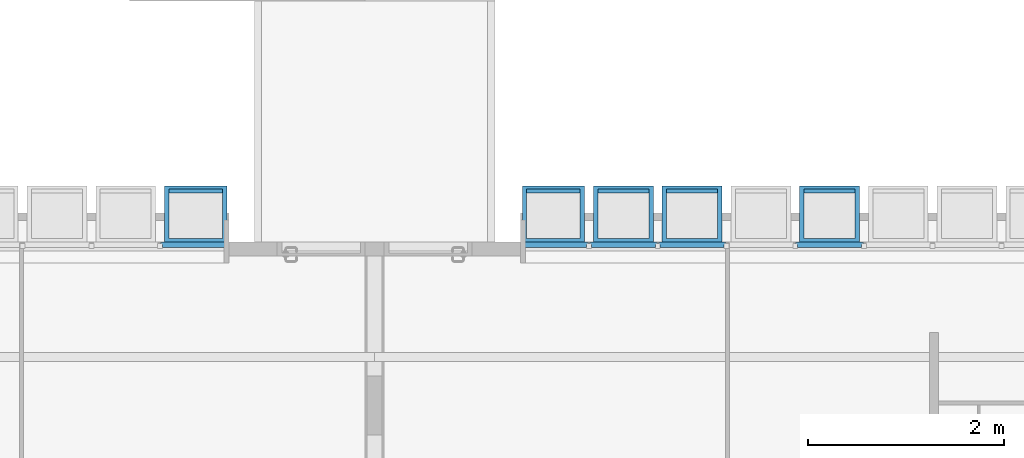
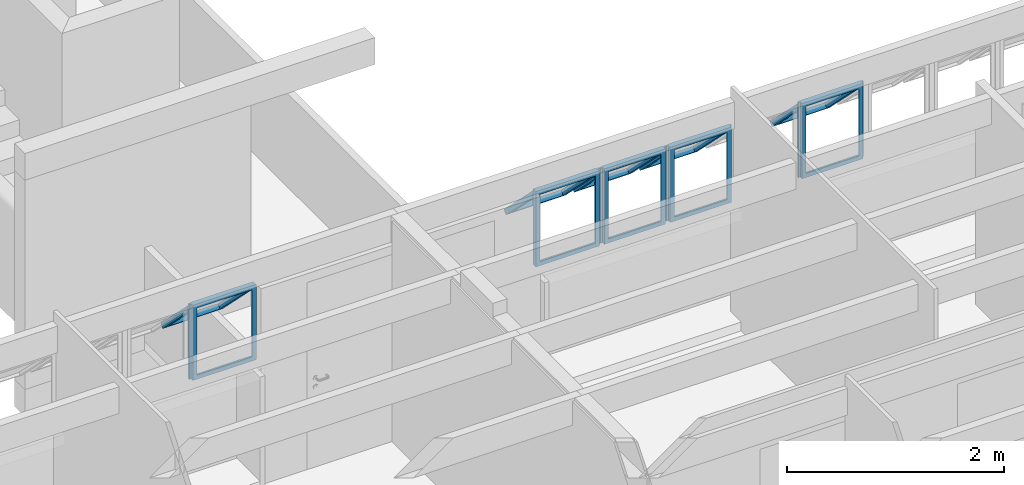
# One storey, part 29 of 37: 5 building element parts, 7 elements without a shape of their own.
"""IFC2X3 building model written with IfcOpenShell, lengths in millimetres."""

from ifc_helpers import new_model, entity, si_unit, converted_unit, derived_unit, money_unit, direction, frame, origin_with_axes, place, context, subcontext, project, spatial, faceted_brep, source, transform, mapped, material, type_object, element, aggregate, save


model = new_model("IFC2X3")

# Units and contexts
model_context = context("Model", 3, precision=0.01, world=origin_with_axes(), true_north=direction((0.0, 1.0)))
body_context = subcontext(model_context, "Body", "Model", "MODEL_VIEW")
ifc_project = project(units=[si_unit("LENGTHUNIT", "METRE", prefix="MILLI"), si_unit("AREAUNIT", "SQUARE_METRE"), si_unit("VOLUMEUNIT", "CUBIC_METRE"), converted_unit("PLANEANGLEUNIT", "DEGREE", entity("IfcPlaneAngleMeasure", 0.0174532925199), si_unit("PLANEANGLEUNIT", "RADIAN"), dimensions=[0, 0, 0, 0, 0, 0, 0]), money_unit("USD"), converted_unit("TIMEUNIT", "Year", entity("IfcTimeMeasure", 31556926.0), si_unit("TIMEUNIT", "SECOND"), dimensions=[0, 0, 1, 0, 0, 0, 0]), si_unit("MASSUNIT", "GRAM", prefix="KILO"), si_unit("THERMODYNAMICTEMPERATUREUNIT", "DEGREE_CELSIUS"), si_unit("LUMINOUSINTENSITYUNIT", "LUMEN"), si_unit("ENERGYUNIT", "JOULE", prefix="MEGA"), derived_unit("THERMALCONDUCTANCEUNIT", [(si_unit("POWERUNIT", "WATT"), 1), (si_unit("LENGTHUNIT", "METRE"), -1), (si_unit("THERMODYNAMICTEMPERATUREUNIT", "KELVIN"), -1)]), derived_unit("SPECIFICHEATCAPACITYUNIT", [(si_unit("ENERGYUNIT", "JOULE"), 1), (si_unit("MASSUNIT", "GRAM", prefix="KILO"), -1), (si_unit("THERMODYNAMICTEMPERATUREUNIT", "KELVIN"), -1)]), derived_unit("MASSDENSITYUNIT", [(si_unit("MASSUNIT", "GRAM", prefix="KILO"), 1), (si_unit("VOLUMEUNIT", "CUBIC_METRE"), -1)])], contexts=[model_context])

# Site, building, storey
site_placement = place(None, origin_with_axes())
site = spatial("IfcSite", under=ifc_project, at=site_placement, Name="Local", CompositionType="ELEMENT")
building_placement = place(site_placement, origin_with_axes())
building = spatial("IfcBuilding", under=site, at=building_placement, Name="Construção", CompositionType="ELEMENT")
storey_placement = place(building_placement, origin_with_axes())
storey = spatial("IfcBuildingStorey", under=building, at=storey_placement, Name="Primeiro Pavimento", CompositionType="ELEMENT", Elevation=0.0)

# Window, plates, building element parts
window_style = type_object("IfcWindowStyle", Name="Tipo de Parede Cortina", ConstructionType="NOTDEFINED", OperationType="NOTDEFINED", ParameterTakesPrecedence=False, Sizeable=False)
window_1_placement = place(storey_placement, frame((12020.0, 8250.0, 1355.00007107), z_axis=(0.0, 0.0, 1.0), x_axis=(1.0, 0.0, 0.0)))
window_1 = element("IfcWindow", 1, at=window_1_placement, inside=storey, type_object=window_style, Name="APTO2-JANELA-000")
plate_type_1 = type_object("IfcPlateType", Name="Painel Principal 690 x 845 x 20", PredefinedType="CURTAIN_PANEL")
plate_1_placement = place(window_1_placement, frame((0.0, 0.0, 422.499964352), z_axis=(0.0, 0.0, 1.0), x_axis=(1.0, 0.0, 0.0)))
plate_1 = element("IfcPlate", 2, at=plate_1_placement, type_object=plate_type_1, Name="APTO2-Painel-Prin-013")
ifc_material = material(Name="Alumínio")
shared_shape_1 = source(origin_with_axes(), body_context, "Body", "Brep", [
    faceted_brep([(25.0000036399, 0.0, -40.0), (674.999997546, 0.0, -40.0), (674.999997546, 0.0, -35.0), (25.0000036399, 0.0, -35.0), (70.0000036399, 45.0, -40.0), (629.999997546, 45.0, -40.0), (629.999997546, 45.0, -35.0), (70.0000036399, 45.0, -35.0)], [[[0, 1, 2, 3]], [[0, 4, 5, 1]], [[1, 5, 6, 2]], [[3, 2, 6, 7]], [[4, 0, 3, 7]], [[5, 4, 7, 6]]]),
    faceted_brep([(674.999997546, 0.0, -40.0), (674.999997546, 844.999891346, -40.0), (674.999997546, 844.999891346, -35.0), (674.999997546, 0.0, -35.0), (629.999997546, 45.0, -40.0), (629.999997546, 799.999891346, -40.0), (629.999997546, 799.999891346, -35.0), (629.999997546, 45.0, -35.0)], [[[0, 1, 2, 3]], [[0, 4, 5, 1]], [[1, 5, 6, 2]], [[3, 2, 6, 7]], [[4, 0, 3, 7]], [[5, 4, 7, 6]]]),
    faceted_brep([(25.0000036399, 844.999891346, -40.0), (70.0000036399, 799.999891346, -40.0), (70.0000036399, 799.999891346, -35.0), (25.0000036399, 844.999891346, -35.0), (674.999997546, 844.999891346, -40.0), (629.999997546, 799.999891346, -40.0), (629.999997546, 799.999891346, -35.0), (674.999997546, 844.999891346, -35.0)], [[[0, 1, 2, 3]], [[0, 4, 5, 1]], [[1, 5, 6, 2]], [[3, 2, 6, 7]], [[4, 0, 3, 7]], [[5, 4, 7, 6]]]),
    faceted_brep([(25.0000036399, 0.0, -40.0), (70.0000036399, 45.0, -40.0), (70.0000036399, 45.0, -35.0), (25.0000036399, 0.0, -35.0), (25.0000036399, 844.999891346, -40.0), (70.0000036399, 799.999891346, -40.0), (70.0000036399, 799.999891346, -35.0), (25.0000036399, 844.999891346, -35.0)], [[[0, 1, 2, 3]], [[0, 4, 5, 1]], [[1, 5, 6, 2]], [[3, 2, 6, 7]], [[4, 0, 3, 7]], [[5, 4, 7, 6]]]),
    faceted_brep([(25.0000036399, 0.0, -35.0), (674.999997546, 0.0, -35.0), (674.999997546, 0.0, 15.0), (25.0000036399, 0.0, 15.0), (45.0000036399, 20.0, -35.0), (654.999997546, 20.0, -35.0), (654.999997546, 20.0, 15.0), (45.0000036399, 20.0, 15.0)], [[[0, 1, 2, 3]], [[0, 4, 5, 1]], [[1, 5, 6, 2]], [[3, 2, 6, 7]], [[4, 0, 3, 7]], [[5, 4, 7, 6]]]),
    faceted_brep([(674.999997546, 0.0, -35.0), (674.999997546, 844.999891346, -35.0), (674.999997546, 844.999891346, 15.0), (674.999997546, 0.0, 15.0), (654.999997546, 20.0, -35.0), (654.999997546, 824.999891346, -35.0), (654.999997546, 824.999891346, 15.0), (654.999997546, 20.0, 15.0)], [[[0, 1, 2, 3]], [[0, 4, 5, 1]], [[1, 5, 6, 2]], [[3, 2, 6, 7]], [[4, 0, 3, 7]], [[5, 4, 7, 6]]]),
    faceted_brep([(25.0000036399, 844.999891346, -35.0), (45.0000036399, 824.999891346, -35.0), (45.0000036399, 824.999891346, 15.0), (25.0000036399, 844.999891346, 15.0), (674.999997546, 844.999891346, -35.0), (654.999997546, 824.999891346, -35.0), (654.999997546, 824.999891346, 15.0), (674.999997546, 844.999891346, 15.0)], [[[0, 1, 2, 3]], [[0, 4, 5, 1]], [[1, 5, 6, 2]], [[3, 2, 6, 7]], [[4, 0, 3, 7]], [[5, 4, 7, 6]]]),
    faceted_brep([(25.0000036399, 0.0, -35.0), (45.0000036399, 20.0, -35.0), (45.0000036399, 20.0, 15.0), (25.0000036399, 0.0, 15.0), (25.0000036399, 844.999891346, -35.0), (45.0000036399, 824.999891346, -35.0), (45.0000036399, 824.999891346, 15.0), (25.0000036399, 844.999891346, 15.0)], [[[0, 1, 2, 3]], [[0, 4, 5, 1]], [[1, 5, 6, 2]], [[3, 2, 6, 7]], [[4, 0, 3, 7]], [[5, 4, 7, 6]]]),
    faceted_brep([(694.999995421, 0.0, -10.0), (694.999995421, 844.999891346, -10.0), (694.999995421, 844.999891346, 10.0), (694.999995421, 0.0, 10.0), (674.999997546, 0.0, -10.0), (674.999997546, 844.999891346, -10.0), (674.999997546, 844.999891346, 10.0), (674.999997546, 0.0, 10.0)], [[[0, 1, 2, 3]], [[0, 4, 5, 1]], [[1, 5, 6, 2]], [[3, 2, 6, 7]], [[4, 0, 3, 7]], [[5, 4, 7, 6]]]),
    faceted_brep([(5.00000576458, 844.999891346, -10.0), (5.00000576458, 0.0, -10.0), (5.00000576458, 0.0, 10.0), (5.00000576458, 844.999891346, 10.0), (25.0000036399, 844.999891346, -10.0), (25.0000036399, 0.0, -10.0), (25.0000036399, 0.0, 10.0), (25.0000036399, 844.999891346, 10.0)], [[[0, 1, 2, 3]], [[0, 4, 5, 1]], [[1, 5, 6, 2]], [[3, 2, 6, 7]], [[4, 0, 3, 7]], [[5, 4, 7, 6]]]),
    faceted_brep([(90.0000036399, 252.243475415, 517.045737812), (90.0000036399, 757.824747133, 11.4644660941), (90.0000036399, 796.715620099, 50.3553390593), (90.0000036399, 291.13434838, 555.936610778), (45.0000036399, 220.423670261, 548.865542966), (45.0000036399, 789.644552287, -20.3553390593), (45.0000036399, 828.535425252, 18.5355339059), (45.0000036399, 259.314543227, 587.756415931)], [[[0, 1, 2, 3]], [[0, 4, 5, 1]], [[1, 5, 6, 2]], [[3, 2, 6, 7]], [[4, 0, 3, 7]], [[5, 4, 7, 6]]]),
    faceted_brep([(654.999997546, 220.423670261, 548.865542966), (654.999997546, 789.644552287, -20.3553390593), (654.999997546, 828.535425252, 18.5355339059), (654.999997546, 259.314543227, 587.756415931), (609.999997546, 252.243475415, 517.045737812), (609.999997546, 757.824747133, 11.4644660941), (609.999997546, 796.715620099, 50.3553390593), (609.999997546, 291.13434838, 555.936610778)], [[[0, 1, 2, 3]], [[0, 4, 5, 1]], [[1, 5, 6, 2]], [[3, 2, 6, 7]], [[4, 0, 3, 7]], [[5, 4, 7, 6]]]),
    faceted_brep([(654.999997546, 220.423670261, 548.865542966), (609.999997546, 252.243475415, 517.045737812), (609.999997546, 291.13434838, 555.936610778), (654.999997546, 259.314543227, 587.756415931), (45.0000036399, 220.423670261, 548.865542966), (90.0000036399, 252.243475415, 517.045737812), (90.0000036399, 291.13434838, 555.936610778), (45.0000036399, 259.314543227, 587.756415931)], [[[0, 1, 2, 3]], [[0, 4, 5, 1]], [[1, 5, 6, 2]], [[3, 2, 6, 7]], [[4, 0, 3, 7]], [[5, 4, 7, 6]]]),
    faceted_brep([(45.0000036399, 789.644552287, -20.3553390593), (90.0000036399, 757.824747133, 11.4644660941), (90.0000036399, 796.715620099, 50.3553390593), (45.0000036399, 828.535425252, 18.5355339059), (654.999997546, 789.644552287, -20.3553390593), (609.999997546, 757.824747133, 11.4644660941), (609.999997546, 796.715620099, 50.3553390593), (654.999997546, 828.535425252, 18.5355339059)], [[[0, 1, 2, 3]], [[0, 4, 5, 1]], [[1, 5, 6, 2]], [[3, 2, 6, 7]], [[4, 0, 3, 7]], [[5, 4, 7, 6]]]),
])
building_element_part_1_placement = place(plate_1_placement, origin_with_axes())
building_element_part_1 = element("IfcBuildingElementPart", 3, at=building_element_part_1_placement, material=ifc_material, Name="Alumínio", context=body_context, shape_type="MappedRepresentation", body=[
    mapped(shared_shape_1, transform((350.0, 0.0, -422.499964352), x_axis=(-1.0, 0.0, 0.0), y_axis=(0.0, 0.0, 1.0), z_axis=(0.0, 1.0, 0.0))),
])
aggregate(plate_1, [building_element_part_1])
plate_2_placement = place(window_1_placement, frame((-2100.0, 0.0, 422.499964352), z_axis=(0.0, 0.0, 1.0), x_axis=(1.0, 0.0, 0.0)))
plate_2 = element("IfcPlate", 4, at=plate_2_placement, type_object=plate_type_1, Name="APTO2-Painel-Prin-029")
building_element_part_2_placement = place(plate_2_placement, origin_with_axes())
building_element_part_2 = element("IfcBuildingElementPart", 5, at=building_element_part_2_placement, material=ifc_material, Name="Alumínio", context=body_context, shape_type="MappedRepresentation", body=[
    mapped(shared_shape_1, transform((350.0, 0.0, -422.499964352), x_axis=(-1.0, 0.0, 0.0), y_axis=(0.0, 0.0, 1.0), z_axis=(0.0, 1.0, 0.0))),
])
aggregate(plate_2, [building_element_part_2])
plate_3_placement = place(window_1_placement, frame((-1400.0, 0.0, 422.499964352), z_axis=(0.0, 0.0, 1.0), x_axis=(1.0, 0.0, 0.0)))
plate_3 = element("IfcPlate", 6, at=plate_3_placement, type_object=plate_type_1, Name="APTO2-Painel-Prin-025")
shared_shape_2 = source(origin_with_axes(), body_context, "Body", "Brep", [
    faceted_brep([(25.0000036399, 0.0, -40.0), (674.999997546, 0.0, -40.0), (674.999997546, 0.0, -35.0), (25.0000036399, 0.0, -35.0), (70.0000036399, 45.0, -40.0), (629.999997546, 45.0, -40.0), (629.999997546, 45.0, -35.0), (70.0000036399, 45.0, -35.0)], [[[0, 1, 2, 3]], [[0, 4, 5, 1]], [[1, 5, 6, 2]], [[3, 2, 6, 7]], [[4, 0, 3, 7]], [[5, 4, 7, 6]]]),
    faceted_brep([(674.999997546, 0.0, -40.0), (674.999997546, 844.999891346, -40.0), (674.999997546, 844.999891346, -35.0), (674.999997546, 0.0, -35.0), (629.999997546, 45.0, -40.0), (629.999997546, 799.999891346, -40.0), (629.999997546, 799.999891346, -35.0), (629.999997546, 45.0, -35.0)], [[[0, 1, 2, 3]], [[0, 4, 5, 1]], [[1, 5, 6, 2]], [[3, 2, 6, 7]], [[4, 0, 3, 7]], [[5, 4, 7, 6]]]),
    faceted_brep([(25.0000036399, 844.999891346, -40.0), (70.0000036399, 799.999891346, -40.0), (70.0000036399, 799.999891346, -35.0), (25.0000036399, 844.999891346, -35.0), (674.999997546, 844.999891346, -40.0), (629.999997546, 799.999891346, -40.0), (629.999997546, 799.999891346, -35.0), (674.999997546, 844.999891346, -35.0)], [[[0, 1, 2, 3]], [[0, 4, 5, 1]], [[1, 5, 6, 2]], [[3, 2, 6, 7]], [[4, 0, 3, 7]], [[5, 4, 7, 6]]]),
    faceted_brep([(25.0000036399, 0.0, -40.0), (70.0000036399, 45.0, -40.0), (70.0000036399, 45.0, -35.0), (25.0000036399, 0.0, -35.0), (25.0000036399, 844.999891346, -40.0), (70.0000036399, 799.999891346, -40.0), (70.0000036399, 799.999891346, -35.0), (25.0000036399, 844.999891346, -35.0)], [[[0, 1, 2, 3]], [[0, 4, 5, 1]], [[1, 5, 6, 2]], [[3, 2, 6, 7]], [[4, 0, 3, 7]], [[5, 4, 7, 6]]]),
    faceted_brep([(25.0000036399, 0.0, -35.0), (674.999997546, 0.0, -35.0), (674.999997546, 0.0, 15.0), (25.0000036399, 0.0, 15.0), (45.0000036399, 20.0, -35.0), (654.999997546, 20.0, -35.0), (654.999997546, 20.0, 15.0), (45.0000036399, 20.0, 15.0)], [[[0, 1, 2, 3]], [[0, 4, 5, 1]], [[1, 5, 6, 2]], [[3, 2, 6, 7]], [[4, 0, 3, 7]], [[5, 4, 7, 6]]]),
    faceted_brep([(674.999997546, 0.0, -35.0), (674.999997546, 844.999891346, -35.0), (674.999997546, 844.999891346, 15.0), (674.999997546, 0.0, 15.0), (654.999997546, 20.0, -35.0), (654.999997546, 824.999891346, -35.0), (654.999997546, 824.999891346, 15.0), (654.999997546, 20.0, 15.0)], [[[0, 1, 2, 3]], [[0, 4, 5, 1]], [[1, 5, 6, 2]], [[3, 2, 6, 7]], [[4, 0, 3, 7]], [[5, 4, 7, 6]]]),
    faceted_brep([(25.0000036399, 844.999891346, -35.0), (45.0000036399, 824.999891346, -35.0), (45.0000036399, 824.999891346, 15.0), (25.0000036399, 844.999891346, 15.0), (674.999997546, 844.999891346, -35.0), (654.999997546, 824.999891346, -35.0), (654.999997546, 824.999891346, 15.0), (674.999997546, 844.999891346, 15.0)], [[[0, 1, 2, 3]], [[0, 4, 5, 1]], [[1, 5, 6, 2]], [[3, 2, 6, 7]], [[4, 0, 3, 7]], [[5, 4, 7, 6]]]),
    faceted_brep([(25.0000036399, 0.0, -35.0), (45.0000036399, 20.0, -35.0), (45.0000036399, 20.0, 15.0), (25.0000036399, 0.0, 15.0), (25.0000036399, 844.999891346, -35.0), (45.0000036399, 824.999891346, -35.0), (45.0000036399, 824.999891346, 15.0), (25.0000036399, 844.999891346, 15.0)], [[[0, 1, 2, 3]], [[0, 4, 5, 1]], [[1, 5, 6, 2]], [[3, 2, 6, 7]], [[4, 0, 3, 7]], [[5, 4, 7, 6]]]),
    faceted_brep([(694.999995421, 0.0, -10.0), (694.999995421, 844.999891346, -10.0), (694.999995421, 844.999891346, 10.0), (694.999995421, 0.0, 10.0), (674.999997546, 0.0, -10.0), (674.999997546, 844.999891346, -10.0), (674.999997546, 844.999891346, 10.0), (674.999997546, 0.0, 10.0)], [[[0, 1, 2, 3]], [[0, 4, 5, 1]], [[1, 5, 6, 2]], [[3, 2, 6, 7]], [[4, 0, 3, 7]], [[5, 4, 7, 6]]]),
    faceted_brep([(5.00000576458, 844.999891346, -10.0), (5.00000576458, 0.0, -10.0), (5.00000576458, 0.0, 10.0), (5.00000576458, 844.999891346, 10.0), (25.0000036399, 844.999891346, -10.0), (25.0000036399, 0.0, -10.0), (25.0000036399, 0.0, 10.0), (25.0000036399, 844.999891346, 10.0)], [[[0, 1, 2, 3]], [[0, 4, 5, 1]], [[1, 5, 6, 2]], [[3, 2, 6, 7]], [[4, 0, 3, 7]], [[5, 4, 7, 6]]]),
    faceted_brep([(90.0000036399, 252.243475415, 517.045737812), (90.0000036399, 757.824747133, 11.4644660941), (90.0000036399, 796.715620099, 50.3553390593), (90.0000036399, 291.13434838, 555.936610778), (45.0000036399, 220.423670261, 548.865542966), (45.0000036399, 789.644552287, -20.3553390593), (45.0000036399, 828.535425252, 18.5355339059), (45.0000036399, 259.314543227, 587.756415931)], [[[0, 1, 2, 3]], [[0, 4, 5, 1]], [[1, 5, 6, 2]], [[3, 2, 6, 7]], [[4, 0, 3, 7]], [[5, 4, 7, 6]]]),
    faceted_brep([(654.999997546, 220.423670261, 548.865542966), (654.999997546, 789.644552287, -20.3553390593), (654.999997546, 828.535425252, 18.5355339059), (654.999997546, 259.314543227, 587.756415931), (609.999997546, 252.243475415, 517.045737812), (609.999997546, 757.824747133, 11.4644660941), (609.999997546, 796.715620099, 50.3553390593), (609.999997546, 291.13434838, 555.936610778)], [[[0, 1, 2, 3]], [[0, 4, 5, 1]], [[1, 5, 6, 2]], [[3, 2, 6, 7]], [[4, 0, 3, 7]], [[5, 4, 7, 6]]]),
    faceted_brep([(654.999997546, 220.423670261, 548.865542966), (609.999997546, 252.243475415, 517.045737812), (609.999997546, 291.13434838, 555.936610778), (654.999997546, 259.314543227, 587.756415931), (45.0000036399, 220.423670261, 548.865542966), (90.0000036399, 252.243475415, 517.045737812), (90.0000036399, 291.13434838, 555.936610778), (45.0000036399, 259.314543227, 587.756415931)], [[[0, 1, 2, 3]], [[0, 4, 5, 1]], [[1, 5, 6, 2]], [[3, 2, 6, 7]], [[4, 0, 3, 7]], [[5, 4, 7, 6]]]),
    faceted_brep([(45.0000036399, 789.644552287, -20.3553390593), (90.0000036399, 757.824747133, 11.4644660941), (90.0000036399, 796.715620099, 50.3553390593), (45.0000036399, 828.535425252, 18.5355339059), (654.999997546, 789.644552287, -20.3553390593), (609.999997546, 757.824747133, 11.4644660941), (609.999997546, 796.715620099, 50.3553390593), (654.999997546, 828.535425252, 18.5355339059)], [[[0, 1, 2, 3]], [[0, 4, 5, 1]], [[1, 5, 6, 2]], [[3, 2, 6, 7]], [[4, 0, 3, 7]], [[5, 4, 7, 6]]]),
])
building_element_part_3_placement = place(plate_3_placement, origin_with_axes())
building_element_part_3 = element("IfcBuildingElementPart", 7, at=building_element_part_3_placement, material=ifc_material, Name="Alumínio", context=body_context, shape_type="MappedRepresentation", body=[
    mapped(shared_shape_2, transform((350.0, 0.0, -422.499964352), x_axis=(-1.0, 0.0, 0.0), y_axis=(0.0, 0.0, 1.0), z_axis=(0.0, 1.0, 0.0))),
])
aggregate(plate_3, [building_element_part_3])

# Window, plate, building element part
window_2_placement = place(storey_placement, frame((294.99998404, 8250.0, 1355.00007107), z_axis=(0.0, 0.0, 1.0), x_axis=(1.0, 0.0, 0.0)))
window_2 = element("IfcWindow", 8, at=window_2_placement, inside=storey, type_object=window_style, Name="APTO1-JANELA-000")
plate_type_2 = type_object("IfcPlateType", Name="Painel Principal 695 x 845 x 20", PredefinedType="CURTAIN_PANEL")
plate_4_placement = place(window_2_placement, frame((5255.00001596, 0.0, 422.499986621), z_axis=(0.0, 0.0, 1.0), x_axis=(-1.0, 0.0, 0.0)))
plate_4 = element("IfcPlate", 9, at=plate_4_placement, type_object=plate_type_2, Name="APTO1-Painel-Prin-020")
aggregate(window_2, [plate_4])
shared_shape_3 = source(origin_with_axes(), body_context, "Body", "Brep", [
    faceted_brep([(-25.0000062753, 0.0, -40.0), (-25.0000062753, 0.0, -35.0), (-699.999999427, 0.0, -35.0), (-699.999999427, 0.0, -40.0), (-70.0000062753, 45.0, -40.0), (-70.0000062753, 45.0, -35.0), (-654.999999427, 45.0, -35.0), (-654.999999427, 45.0, -40.0)], [[[0, 1, 2, 3]], [[4, 5, 1, 0]], [[1, 5, 6, 2]], [[3, 2, 6, 7]], [[0, 3, 7, 4]], [[7, 6, 5, 4]]]),
    faceted_brep([(-699.999999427, 0.0, -40.0), (-699.999999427, 0.0, -35.0), (-699.999999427, 844.999980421, -35.0), (-699.999999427, 844.999980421, -40.0), (-654.999999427, 45.0, -40.0), (-654.999999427, 45.0, -35.0), (-654.999999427, 799.999980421, -35.0), (-654.999999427, 799.999980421, -40.0)], [[[0, 1, 2, 3]], [[4, 5, 1, 0]], [[1, 5, 6, 2]], [[3, 2, 6, 7]], [[0, 3, 7, 4]], [[7, 6, 5, 4]]]),
    faceted_brep([(-25.0000062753, 844.999980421, -40.0), (-25.0000062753, 844.999980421, -35.0), (-70.0000062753, 799.999980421, -35.0), (-70.0000062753, 799.999980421, -40.0), (-699.999999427, 844.999980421, -40.0), (-699.999999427, 844.999980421, -35.0), (-654.999999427, 799.999980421, -35.0), (-654.999999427, 799.999980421, -40.0)], [[[0, 1, 2, 3]], [[4, 5, 1, 0]], [[1, 5, 6, 2]], [[3, 2, 6, 7]], [[0, 3, 7, 4]], [[7, 6, 5, 4]]]),
    faceted_brep([(-25.0000062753, 0.0, -40.0), (-25.0000062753, 0.0, -35.0), (-70.0000062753, 45.0, -35.0), (-70.0000062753, 45.0, -40.0), (-25.0000062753, 844.999980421, -40.0), (-25.0000062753, 844.999980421, -35.0), (-70.0000062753, 799.999980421, -35.0), (-70.0000062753, 799.999980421, -40.0)], [[[0, 1, 2, 3]], [[4, 5, 1, 0]], [[1, 5, 6, 2]], [[3, 2, 6, 7]], [[0, 3, 7, 4]], [[7, 6, 5, 4]]]),
    faceted_brep([(-25.0000062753, 0.0, -35.0), (-25.0000062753, 0.0, 15.0), (-699.999999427, 0.0, 15.0), (-699.999999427, 0.0, -35.0), (-45.0000062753, 20.0, -35.0), (-45.0000062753, 20.0, 15.0), (-679.999999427, 20.0, 15.0), (-679.999999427, 20.0, -35.0)], [[[0, 1, 2, 3]], [[4, 5, 1, 0]], [[1, 5, 6, 2]], [[3, 2, 6, 7]], [[0, 3, 7, 4]], [[7, 6, 5, 4]]]),
    faceted_brep([(-699.999999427, 0.0, -35.0), (-699.999999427, 0.0, 15.0), (-699.999999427, 844.999980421, 15.0), (-699.999999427, 844.999980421, -35.0), (-679.999999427, 20.0, -35.0), (-679.999999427, 20.0, 15.0), (-679.999999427, 824.999980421, 15.0), (-679.999999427, 824.999980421, -35.0)], [[[0, 1, 2, 3]], [[4, 5, 1, 0]], [[1, 5, 6, 2]], [[3, 2, 6, 7]], [[0, 3, 7, 4]], [[7, 6, 5, 4]]]),
    faceted_brep([(-25.0000062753, 844.999980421, -35.0), (-25.0000062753, 844.999980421, 15.0), (-45.0000062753, 824.999980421, 15.0), (-45.0000062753, 824.999980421, -35.0), (-699.999999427, 844.999980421, -35.0), (-699.999999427, 844.999980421, 15.0), (-679.999999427, 824.999980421, 15.0), (-679.999999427, 824.999980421, -35.0)], [[[0, 1, 2, 3]], [[4, 5, 1, 0]], [[1, 5, 6, 2]], [[3, 2, 6, 7]], [[0, 3, 7, 4]], [[7, 6, 5, 4]]]),
    faceted_brep([(-25.0000062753, 0.0, -35.0), (-25.0000062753, 0.0, 15.0), (-45.0000062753, 20.0, 15.0), (-45.0000062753, 20.0, -35.0), (-25.0000062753, 844.999980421, -35.0), (-25.0000062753, 844.999980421, 15.0), (-45.0000062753, 824.999980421, 15.0), (-45.0000062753, 824.999980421, -35.0)], [[[0, 1, 2, 3]], [[4, 5, 1, 0]], [[1, 5, 6, 2]], [[3, 2, 6, 7]], [[0, 3, 7, 4]], [[7, 6, 5, 4]]]),
    faceted_brep([(-5.00000629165, 844.999980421, -10.0), (-5.00000629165, 844.999980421, 10.0), (-5.00000629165, 0.0, 10.0), (-5.00000629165, 0.0, -10.0), (-25.0000062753, 844.999980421, -10.0), (-25.0000062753, 844.999980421, 10.0), (-25.0000062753, 0.0, 10.0), (-25.0000062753, 0.0, -10.0)], [[[0, 1, 2, 3]], [[4, 5, 1, 0]], [[1, 5, 6, 2]], [[3, 2, 6, 7]], [[0, 3, 7, 4]], [[7, 6, 5, 4]]]),
    faceted_brep([(-90.0000062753, 252.243501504, 517.045800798), (-90.0000062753, 291.134374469, 555.936673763), (-90.0000062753, 796.715709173, 50.3553390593), (-90.0000062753, 757.824836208, 11.4644660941), (-45.0000062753, 220.423696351, 548.865605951), (-45.0000062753, 259.314569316, 587.756478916), (-45.0000062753, 828.535514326, 18.5355339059), (-45.0000062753, 789.644641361, -20.3553390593)], [[[0, 1, 2, 3]], [[4, 5, 1, 0]], [[1, 5, 6, 2]], [[3, 2, 6, 7]], [[0, 3, 7, 4]], [[7, 6, 5, 4]]]),
    faceted_brep([(-679.999999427, 220.423696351, 548.865605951), (-679.999999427, 259.314569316, 587.756478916), (-679.999999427, 828.535514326, 18.5355339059), (-679.999999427, 789.644641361, -20.3553390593), (-634.999999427, 252.243501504, 517.045800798), (-634.999999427, 291.134374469, 555.936673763), (-634.999999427, 796.715709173, 50.3553390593), (-634.999999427, 757.824836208, 11.4644660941)], [[[0, 1, 2, 3]], [[4, 5, 1, 0]], [[1, 5, 6, 2]], [[3, 2, 6, 7]], [[0, 3, 7, 4]], [[7, 6, 5, 4]]]),
    faceted_brep([(-679.999999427, 220.423696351, 548.865605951), (-679.999999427, 259.314569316, 587.756478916), (-634.999999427, 291.134374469, 555.936673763), (-634.999999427, 252.243501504, 517.045800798), (-45.0000062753, 220.423696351, 548.865605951), (-45.0000062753, 259.314569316, 587.756478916), (-90.0000062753, 291.134374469, 555.936673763), (-90.0000062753, 252.243501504, 517.045800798)], [[[0, 1, 2, 3]], [[4, 5, 1, 0]], [[1, 5, 6, 2]], [[3, 2, 6, 7]], [[0, 3, 7, 4]], [[7, 6, 5, 4]]]),
    faceted_brep([(-45.0000062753, 789.644641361, -20.3553390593), (-45.0000062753, 828.535514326, 18.5355339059), (-90.0000062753, 796.715709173, 50.3553390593), (-90.0000062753, 757.824836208, 11.4644660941), (-679.999999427, 789.644641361, -20.3553390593), (-679.999999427, 828.535514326, 18.5355339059), (-634.999999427, 796.715709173, 50.3553390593), (-634.999999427, 757.824836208, 11.4644660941)], [[[0, 1, 2, 3]], [[4, 5, 1, 0]], [[1, 5, 6, 2]], [[3, 2, 6, 7]], [[0, 3, 7, 4]], [[7, 6, 5, 4]]]),
])
building_element_part_4_placement = place(plate_4_placement, origin_with_axes())
building_element_part_4 = element("IfcBuildingElementPart", 10, at=building_element_part_4_placement, material=ifc_material, Name="Alumínio", context=body_context, shape_type="MappedRepresentation", body=[
    mapped(shared_shape_3, transform((350.0, 0.0, -422.499986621), x_axis=(1.0, 0.0, 0.0), y_axis=(0.0, 0.0, 1.0), z_axis=(0.0, -1.0, 0.0))),
])
aggregate(plate_4, [building_element_part_4])

# Plate
plate_5_placement = place(window_1_placement, frame((-2800.0, 0.0, 422.499986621), z_axis=(0.0, 0.0, 1.0), x_axis=(1.0, 0.0, 0.0)))
plate_5 = element("IfcPlate", 11, at=plate_5_placement, type_object=plate_type_2, Name="APTO2-Painel-Prin-020")

aggregate(window_1, [plate_1, plate_2, plate_3, plate_5])

# Building element part
shared_shape_4 = source(origin_with_axes(), body_context, "Body", "Brep", [
    faceted_brep([(25.0000062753, 0.0, -40.0), (699.999999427, 0.0, -40.0), (699.999999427, 0.0, -35.0), (25.0000062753, 0.0, -35.0), (70.0000062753, 45.0, -40.0), (654.999999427, 45.0, -40.0), (654.999999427, 45.0, -35.0), (70.0000062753, 45.0, -35.0)], [[[0, 1, 2, 3]], [[0, 4, 5, 1]], [[1, 5, 6, 2]], [[3, 2, 6, 7]], [[4, 0, 3, 7]], [[5, 4, 7, 6]]]),
    faceted_brep([(699.999999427, 0.0, -40.0), (699.999999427, 844.999980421, -40.0), (699.999999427, 844.999980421, -35.0), (699.999999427, 0.0, -35.0), (654.999999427, 45.0, -40.0), (654.999999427, 799.999980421, -40.0), (654.999999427, 799.999980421, -35.0), (654.999999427, 45.0, -35.0)], [[[0, 1, 2, 3]], [[0, 4, 5, 1]], [[1, 5, 6, 2]], [[3, 2, 6, 7]], [[4, 0, 3, 7]], [[5, 4, 7, 6]]]),
    faceted_brep([(25.0000062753, 844.999980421, -40.0), (70.0000062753, 799.999980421, -40.0), (70.0000062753, 799.999980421, -35.0), (25.0000062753, 844.999980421, -35.0), (699.999999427, 844.999980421, -40.0), (654.999999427, 799.999980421, -40.0), (654.999999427, 799.999980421, -35.0), (699.999999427, 844.999980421, -35.0)], [[[0, 1, 2, 3]], [[0, 4, 5, 1]], [[1, 5, 6, 2]], [[3, 2, 6, 7]], [[4, 0, 3, 7]], [[5, 4, 7, 6]]]),
    faceted_brep([(25.0000062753, 0.0, -40.0), (70.0000062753, 45.0, -40.0), (70.0000062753, 45.0, -35.0), (25.0000062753, 0.0, -35.0), (25.0000062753, 844.999980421, -40.0), (70.0000062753, 799.999980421, -40.0), (70.0000062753, 799.999980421, -35.0), (25.0000062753, 844.999980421, -35.0)], [[[0, 1, 2, 3]], [[0, 4, 5, 1]], [[1, 5, 6, 2]], [[3, 2, 6, 7]], [[4, 0, 3, 7]], [[5, 4, 7, 6]]]),
    faceted_brep([(25.0000062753, 0.0, -35.0), (699.999999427, 0.0, -35.0), (699.999999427, 0.0, 15.0), (25.0000062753, 0.0, 15.0), (45.0000062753, 20.0, -35.0), (679.999999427, 20.0, -35.0), (679.999999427, 20.0, 15.0), (45.0000062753, 20.0, 15.0)], [[[0, 1, 2, 3]], [[0, 4, 5, 1]], [[1, 5, 6, 2]], [[3, 2, 6, 7]], [[4, 0, 3, 7]], [[5, 4, 7, 6]]]),
    faceted_brep([(699.999999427, 0.0, -35.0), (699.999999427, 844.999980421, -35.0), (699.999999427, 844.999980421, 15.0), (699.999999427, 0.0, 15.0), (679.999999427, 20.0, -35.0), (679.999999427, 824.999980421, -35.0), (679.999999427, 824.999980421, 15.0), (679.999999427, 20.0, 15.0)], [[[0, 1, 2, 3]], [[0, 4, 5, 1]], [[1, 5, 6, 2]], [[3, 2, 6, 7]], [[4, 0, 3, 7]], [[5, 4, 7, 6]]]),
    faceted_brep([(25.0000062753, 844.999980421, -35.0), (45.0000062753, 824.999980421, -35.0), (45.0000062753, 824.999980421, 15.0), (25.0000062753, 844.999980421, 15.0), (699.999999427, 844.999980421, -35.0), (679.999999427, 824.999980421, -35.0), (679.999999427, 824.999980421, 15.0), (699.999999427, 844.999980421, 15.0)], [[[0, 1, 2, 3]], [[0, 4, 5, 1]], [[1, 5, 6, 2]], [[3, 2, 6, 7]], [[4, 0, 3, 7]], [[5, 4, 7, 6]]]),
    faceted_brep([(25.0000062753, 0.0, -35.0), (45.0000062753, 20.0, -35.0), (45.0000062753, 20.0, 15.0), (25.0000062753, 0.0, 15.0), (25.0000062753, 844.999980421, -35.0), (45.0000062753, 824.999980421, -35.0), (45.0000062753, 824.999980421, 15.0), (25.0000062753, 844.999980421, 15.0)], [[[0, 1, 2, 3]], [[0, 4, 5, 1]], [[1, 5, 6, 2]], [[3, 2, 6, 7]], [[4, 0, 3, 7]], [[5, 4, 7, 6]]]),
    faceted_brep([(5.00000629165, 844.999980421, -10.0), (5.00000629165, 0.0, -10.0), (5.00000629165, 0.0, 10.0), (5.00000629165, 844.999980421, 10.0), (25.0000062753, 844.999980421, -10.0), (25.0000062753, 0.0, -10.0), (25.0000062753, 0.0, 10.0), (25.0000062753, 844.999980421, 10.0)], [[[0, 1, 2, 3]], [[0, 4, 5, 1]], [[1, 5, 6, 2]], [[3, 2, 6, 7]], [[4, 0, 3, 7]], [[5, 4, 7, 6]]]),
    faceted_brep([(90.0000062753, 252.243501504, 517.045800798), (90.0000062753, 757.824836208, 11.4644660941), (90.0000062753, 796.715709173, 50.3553390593), (90.0000062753, 291.134374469, 555.936673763), (45.0000062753, 220.423696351, 548.865605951), (45.0000062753, 789.644641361, -20.3553390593), (45.0000062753, 828.535514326, 18.5355339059), (45.0000062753, 259.314569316, 587.756478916)], [[[0, 1, 2, 3]], [[0, 4, 5, 1]], [[1, 5, 6, 2]], [[3, 2, 6, 7]], [[4, 0, 3, 7]], [[5, 4, 7, 6]]]),
    faceted_brep([(679.999999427, 220.423696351, 548.865605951), (679.999999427, 789.644641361, -20.3553390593), (679.999999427, 828.535514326, 18.5355339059), (679.999999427, 259.314569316, 587.756478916), (634.999999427, 252.243501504, 517.045800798), (634.999999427, 757.824836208, 11.4644660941), (634.999999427, 796.715709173, 50.3553390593), (634.999999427, 291.134374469, 555.936673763)], [[[0, 1, 2, 3]], [[0, 4, 5, 1]], [[1, 5, 6, 2]], [[3, 2, 6, 7]], [[4, 0, 3, 7]], [[5, 4, 7, 6]]]),
    faceted_brep([(679.999999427, 220.423696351, 548.865605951), (634.999999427, 252.243501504, 517.045800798), (634.999999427, 291.134374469, 555.936673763), (679.999999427, 259.314569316, 587.756478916), (45.0000062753, 220.423696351, 548.865605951), (90.0000062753, 252.243501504, 517.045800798), (90.0000062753, 291.134374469, 555.936673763), (45.0000062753, 259.314569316, 587.756478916)], [[[0, 1, 2, 3]], [[0, 4, 5, 1]], [[1, 5, 6, 2]], [[3, 2, 6, 7]], [[4, 0, 3, 7]], [[5, 4, 7, 6]]]),
    faceted_brep([(45.0000062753, 789.644641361, -20.3553390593), (90.0000062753, 757.824836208, 11.4644660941), (90.0000062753, 796.715709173, 50.3553390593), (45.0000062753, 828.535514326, 18.5355339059), (679.999999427, 789.644641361, -20.3553390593), (634.999999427, 757.824836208, 11.4644660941), (634.999999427, 796.715709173, 50.3553390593), (679.999999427, 828.535514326, 18.5355339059)], [[[0, 1, 2, 3]], [[0, 4, 5, 1]], [[1, 5, 6, 2]], [[3, 2, 6, 7]], [[4, 0, 3, 7]], [[5, 4, 7, 6]]]),
])
building_element_part_5_placement = place(plate_5_placement, origin_with_axes())
building_element_part_5 = element("IfcBuildingElementPart", 12, at=building_element_part_5_placement, material=ifc_material, Name="Alumínio", context=body_context, shape_type="MappedRepresentation", body=[
    mapped(shared_shape_4, transform((350.0, 0.0, -422.499986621), x_axis=(-1.0, 0.0, 0.0), y_axis=(0.0, 0.0, 1.0), z_axis=(0.0, 1.0, 0.0))),
])

aggregate(plate_5, [building_element_part_5])

save(model, "model.ifc")
